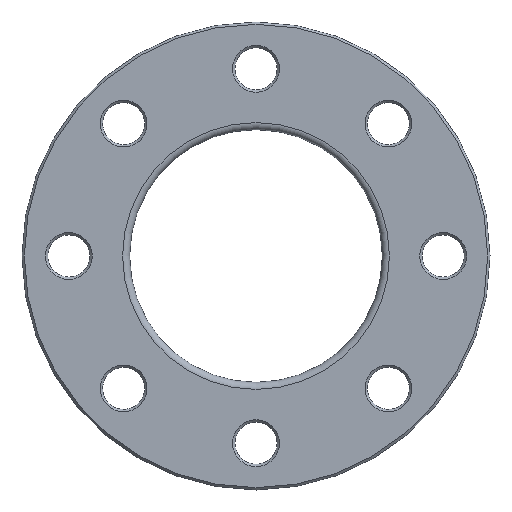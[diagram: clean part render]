
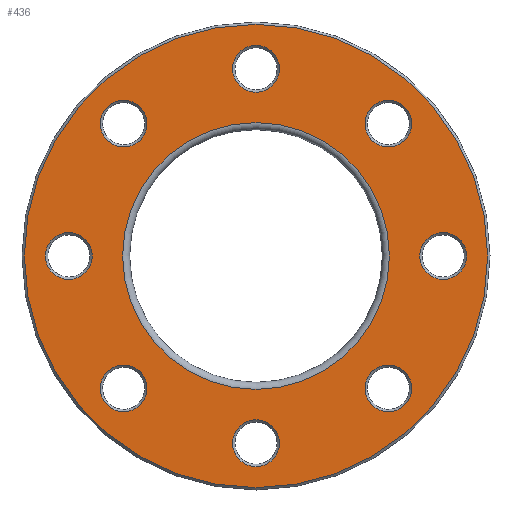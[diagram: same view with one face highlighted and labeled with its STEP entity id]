
A CAD part, front view. The second image highlights one B-rep face of the part: STEP entity #436.
In plain terms, the highlighted planar face has unit normal (0, -1, 0).
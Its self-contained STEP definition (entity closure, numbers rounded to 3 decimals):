
#23=PLANE('',#516);
#98=ORIENTED_EDGE('',*,*,#157,.T.);
#99=ORIENTED_EDGE('',*,*,#158,.T.);
#100=ORIENTED_EDGE('',*,*,#124,.T.);
#101=ORIENTED_EDGE('',*,*,#128,.T.);
#102=ORIENTED_EDGE('',*,*,#132,.T.);
#103=ORIENTED_EDGE('',*,*,#136,.T.);
#104=ORIENTED_EDGE('',*,*,#140,.T.);
#105=ORIENTED_EDGE('',*,*,#144,.T.);
#106=ORIENTED_EDGE('',*,*,#148,.T.);
#107=ORIENTED_EDGE('',*,*,#159,.T.);
#124=EDGE_CURVE('',#164,#164,#204,.T.);
#128=EDGE_CURVE('',#168,#168,#208,.T.);
#132=EDGE_CURVE('',#172,#172,#212,.T.);
#136=EDGE_CURVE('',#176,#176,#216,.T.);
#140=EDGE_CURVE('',#180,#180,#220,.T.);
#144=EDGE_CURVE('',#184,#184,#224,.T.);
#148=EDGE_CURVE('',#188,#188,#228,.T.);
#157=EDGE_CURVE('',#197,#197,#237,.F.);
#158=EDGE_CURVE('',#198,#198,#238,.T.);
#159=EDGE_CURVE('',#199,#199,#239,.T.);
#164=VERTEX_POINT('',#683);
#168=VERTEX_POINT('',#694);
#172=VERTEX_POINT('',#705);
#176=VERTEX_POINT('',#716);
#180=VERTEX_POINT('',#727);
#184=VERTEX_POINT('',#738);
#188=VERTEX_POINT('',#749);
#197=VERTEX_POINT('',#772);
#198=VERTEX_POINT('',#774);
#199=VERTEX_POINT('',#776);
#204=CIRCLE('',#461,10.);
#208=CIRCLE('',#468,10.);
#212=CIRCLE('',#475,10.);
#216=CIRCLE('',#482,10.);
#220=CIRCLE('',#489,10.);
#224=CIRCLE('',#496,10.);
#228=CIRCLE('',#503,10.);
#237=CIRCLE('',#517,99.);
#238=CIRCLE('',#518,57.);
#239=CIRCLE('',#519,10.);
#298=EDGE_LOOP('',(#98));
#299=EDGE_LOOP('',(#99));
#300=EDGE_LOOP('',(#100));
#301=EDGE_LOOP('',(#101));
#302=EDGE_LOOP('',(#102));
#303=EDGE_LOOP('',(#103));
#304=EDGE_LOOP('',(#104));
#305=EDGE_LOOP('',(#105));
#306=EDGE_LOOP('',(#106));
#307=EDGE_LOOP('',(#107));
#378=FACE_BOUND('',#298,.T.);
#379=FACE_BOUND('',#299,.T.);
#380=FACE_BOUND('',#300,.T.);
#381=FACE_BOUND('',#301,.T.);
#382=FACE_BOUND('',#302,.T.);
#383=FACE_BOUND('',#303,.T.);
#384=FACE_BOUND('',#304,.T.);
#385=FACE_BOUND('',#305,.T.);
#386=FACE_BOUND('',#306,.T.);
#387=FACE_BOUND('',#307,.T.);
#436=ADVANCED_FACE('',(#378,#379,#380,#381,#382,#383,#384,#385,#386,#387),
#23,.F.);
#461=AXIS2_PLACEMENT_3D('',#682,#539,#540);
#468=AXIS2_PLACEMENT_3D('',#693,#553,#554);
#475=AXIS2_PLACEMENT_3D('',#704,#567,#568);
#482=AXIS2_PLACEMENT_3D('',#715,#581,#582);
#489=AXIS2_PLACEMENT_3D('',#726,#595,#596);
#496=AXIS2_PLACEMENT_3D('',#737,#609,#610);
#503=AXIS2_PLACEMENT_3D('',#748,#623,#624);
#516=AXIS2_PLACEMENT_3D('',#770,#649,#650);
#517=AXIS2_PLACEMENT_3D('',#771,#651,#652);
#518=AXIS2_PLACEMENT_3D('',#773,#653,#654);
#519=AXIS2_PLACEMENT_3D('',#775,#655,#656);
#539=DIRECTION('',(0.,1.,0.));
#540=DIRECTION('',(0.707,0.,0.707));
#553=DIRECTION('',(0.,1.,0.));
#554=DIRECTION('',(0.,0.,1.));
#567=DIRECTION('',(0.,1.,0.));
#568=DIRECTION('',(-0.707,0.,0.707));
#581=DIRECTION('',(0.,1.,0.));
#582=DIRECTION('',(-1.,0.,0.));
#595=DIRECTION('',(0.,1.,0.));
#596=DIRECTION('',(-0.707,0.,-0.707));
#609=DIRECTION('',(0.,1.,0.));
#610=DIRECTION('',(0.,0.,-1.));
#623=DIRECTION('',(0.,1.,0.));
#624=DIRECTION('',(0.707,0.,-0.707));
#649=DIRECTION('',(0.,1.,0.));
#650=DIRECTION('',(0.,0.,1.));
#651=DIRECTION('',(0.,1.,0.));
#652=DIRECTION('',(0.,0.,1.));
#653=DIRECTION('',(0.,1.,0.));
#654=DIRECTION('',(0.,0.,1.));
#655=DIRECTION('',(0.,1.,0.));
#656=DIRECTION('',(1.,0.,0.));
#682=CARTESIAN_POINT('',(-56.569,0.,56.569));
#683=CARTESIAN_POINT('',(-49.497,0.,63.64));
#693=CARTESIAN_POINT('',(-80.,0.,0.));
#694=CARTESIAN_POINT('',(-80.,0.,10.));
#704=CARTESIAN_POINT('',(-56.569,0.,-56.569));
#705=CARTESIAN_POINT('',(-63.64,0.,-49.497));
#715=CARTESIAN_POINT('',(0.,0.,-80.));
#716=CARTESIAN_POINT('',(-10.,0.,-80.));
#726=CARTESIAN_POINT('',(56.569,0.,-56.569));
#727=CARTESIAN_POINT('',(49.497,0.,-63.64));
#737=CARTESIAN_POINT('',(80.,0.,0.));
#738=CARTESIAN_POINT('',(80.,0.,-10.));
#748=CARTESIAN_POINT('',(56.569,0.,56.569));
#749=CARTESIAN_POINT('',(63.64,0.,49.497));
#770=CARTESIAN_POINT('',(0.,0.,0.));
#771=CARTESIAN_POINT('',(0.,0.,0.));
#772=CARTESIAN_POINT('',(0.,0.,99.));
#773=CARTESIAN_POINT('',(0.,0.,0.));
#774=CARTESIAN_POINT('',(0.,0.,57.));
#775=CARTESIAN_POINT('',(0.,0.,80.));
#776=CARTESIAN_POINT('',(10.,0.,80.));
